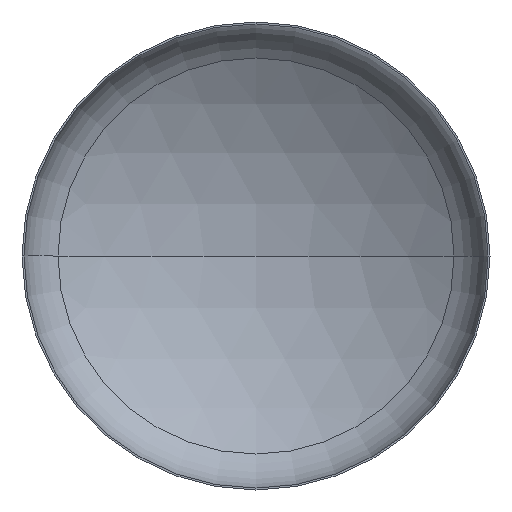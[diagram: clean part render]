
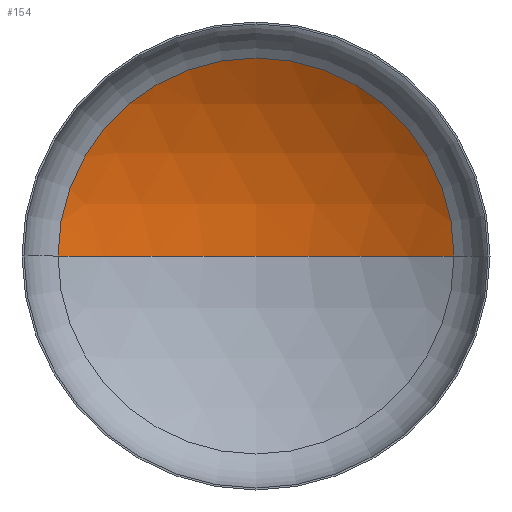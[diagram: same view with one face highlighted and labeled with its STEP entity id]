
A CAD part, front view. The second image highlights one B-rep face of the part: STEP entity #154.
In plain terms, the highlighted spherical face has radius 1760 mm.
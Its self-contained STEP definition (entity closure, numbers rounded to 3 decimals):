
#8 = EDGE_LOOP ( 'NONE', ( #143, #142, #107 ) ) ;
#10 = DIRECTION ( 'NONE',  ( -1., 0., 0. ) ) ;
#31 = CIRCLE ( 'NONE', #81, 1760. ) ;
#42 = VERTEX_POINT ( 'NONE', #285 ) ;
#62 = AXIS2_PLACEMENT_3D ( 'NONE', #175, #199, #200 ) ;
#72 = AXIS2_PLACEMENT_3D ( 'NONE', #213, #300, #190 ) ;
#77 = VERTEX_POINT ( 'NONE', #261 ) ;
#81 = AXIS2_PLACEMENT_3D ( 'NONE', #121, #179, #10 ) ;
#82 = AXIS2_PLACEMENT_3D ( 'NONE', #203, #206, #181 ) ;
#107 = ORIENTED_EDGE ( 'NONE', *, *, #153, .T. ) ;
#117 = VERTEX_POINT ( 'NONE', #227 ) ;
#121 = CARTESIAN_POINT ( 'NONE',  ( 0., -1175.155, 0. ) ) ;
#142 = ORIENTED_EDGE ( 'NONE', *, *, #156, .T. ) ;
#143 = ORIENTED_EDGE ( 'NONE', *, *, #166, .F. ) ;
#153 = EDGE_CURVE ( 'NONE', #77, #117, #310, .T. ) ;
#154 = ADVANCED_FACE ( 'NONE', ( #251 ), #173, .F. ) ;
#156 = EDGE_CURVE ( 'NONE', #42, #77, #31, .T. ) ;
#166 = EDGE_CURVE ( 'NONE', #42, #117, #302, .T. ) ;
#173 = SPHERICAL_SURFACE ( 'NONE', #72, 1760. ) ;
#175 = CARTESIAN_POINT ( 'NONE',  ( 0., -1175.155, 0. ) ) ;
#179 = DIRECTION ( 'NONE',  ( 0., 0., -1. ) ) ;
#181 = DIRECTION ( 'NONE',  ( 1., 0., 0. ) ) ;
#190 = DIRECTION ( 'NONE',  ( -1., 0., 0. ) ) ;
#199 = DIRECTION ( 'NONE',  ( 0., 0., 1. ) ) ;
#200 = DIRECTION ( 'NONE',  ( 1., 0., 0. ) ) ;
#203 = CARTESIAN_POINT ( 'NONE',  ( 0., 318.558, 0. ) ) ;
#206 = DIRECTION ( 'NONE',  ( 0., -1., 0. ) ) ;
#213 = CARTESIAN_POINT ( 'NONE',  ( 0., -1175.155, 0. ) ) ;
#227 = CARTESIAN_POINT ( 'NONE',  ( -930.817, 318.558, 0. ) ) ;
#251 = FACE_OUTER_BOUND ( 'NONE', #8, .T. ) ;
#261 = CARTESIAN_POINT ( 'NONE',  ( 930.817, 318.558, 0. ) ) ;
#285 = CARTESIAN_POINT ( 'NONE',  ( 0., 584.845, 0. ) ) ;
#300 = DIRECTION ( 'NONE',  ( 0., 0., -1. ) ) ;
#302 = CIRCLE ( 'NONE', #62, 1760. ) ;
#310 = CIRCLE ( 'NONE', #82, 930.817 ) ;
